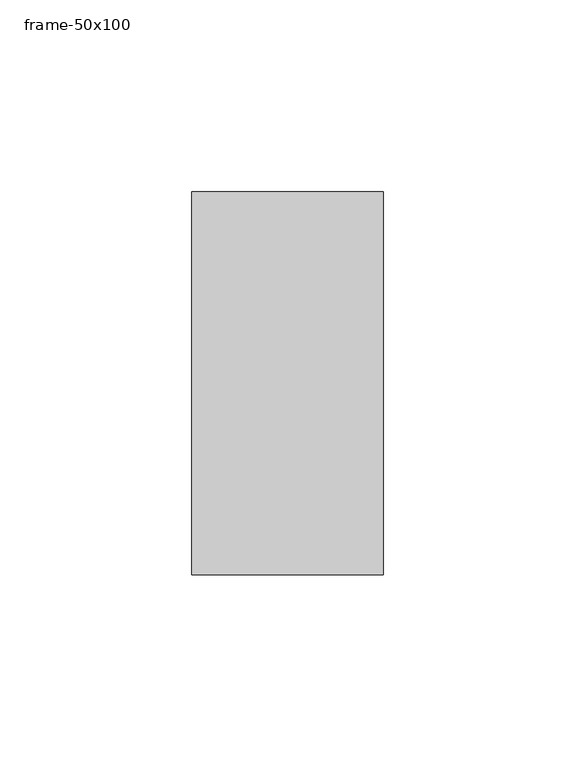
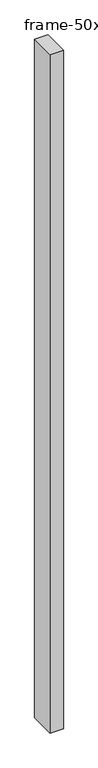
"""IFC4 building model written with IfcOpenShell, lengths in millimetres: member geometry, 長方形マリオン : frame-50x100."""

from ifc_helpers import new_model, si_unit, frame, origin, place, context, project, spatial, polyline, outline, extrude, source, transform, mapped, element, save


def frame_50x100_53001aca(model_context):
    return source(origin(), model_context, "Body", "SweptSolid", [
        extrude(outline(polyline([(25.0, 50.0), (25.0, -50.0), (-25.0, -50.0), (-25.0, 50.0), (25.0, 50.0)])), frame((0.0, 0.0, -2700.0), z_axis=(0.0, 0.0, 1.0), x_axis=(1.0, 0.0, 0.0)), (0.0, 0.0, 1.0), 2700.0),
    ])


if __name__ == "__main__":
    model = new_model("IFC4")
    model_context = context("Model", 3, world=origin())
    ifc_project = project(units=[si_unit("LENGTHUNIT", "METRE", prefix="MILLI")], contexts=[model_context])
    site = spatial("IfcSite", under=ifc_project)
    building = spatial("IfcBuilding", under=site)
    placement = place(None, origin())
    frame_50x100_shape = frame_50x100_53001aca(model_context)
    element("IfcMember", 1, ObjectType="長方形マリオン : frame-50x100", at=placement, inside=building, context=model_context, shape_type="MappedRepresentation", body=[
        mapped(frame_50x100_shape, transform((0.0, 0.0, 0.0), x_axis=(1.0, 0.0, 0.0), y_axis=(0.0, 1.0, 0.0), z_axis=(0.0, 0.0, 1.0))),
    ])
    save(model, "model.ifc")
